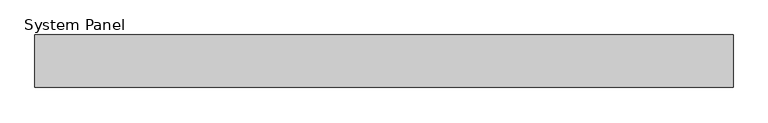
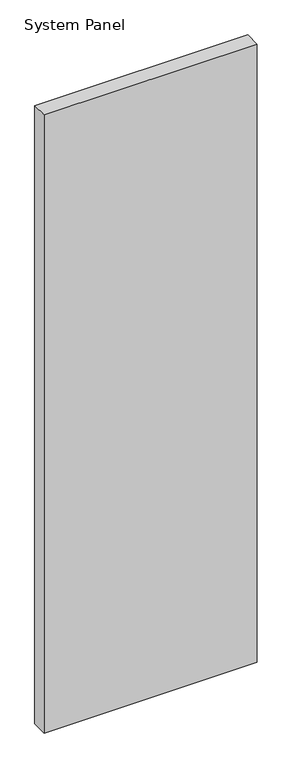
"""IFC4 building model written with IfcOpenShell, lengths in millimetres: plate geometry, System Panel : InsulWall_90mm_Plain_Surfmist."""

from ifc_helpers import new_model, si_unit, origin, origin_with_axes, place, context, project, spatial, polyline, outline, extrude, source, transform, mapped, element, save


def system_panel_21d90be0(model_context):
    return source(origin(), model_context, "Body", "SweptSolid", [
        extrude(outline(polyline([(600.0, -90.0), (-600.0, -90.0), (-600.0, 0.0), (600.0, 0.0), (600.0, -90.0)])), origin_with_axes(), (0.0, 0.0, 1.0), 3679.9704237),
    ])


if __name__ == "__main__":
    model = new_model("IFC4")
    model_context = context("Model", 3, world=origin())
    ifc_project = project(units=[si_unit("LENGTHUNIT", "METRE", prefix="MILLI")], contexts=[model_context])
    site = spatial("IfcSite", under=ifc_project)
    building = spatial("IfcBuilding", under=site)
    placement = place(None, origin())
    system_panel_shape = system_panel_21d90be0(model_context)
    element("IfcPlate", 1, ObjectType="System Panel : InsulWall_90mm_Plain_Surfmist", at=placement, inside=building, context=model_context, shape_type="MappedRepresentation", body=[
        mapped(system_panel_shape, transform((0.0, 0.0, 0.0), x_axis=(1.0, 0.0, 0.0), y_axis=(0.0, 1.0, 0.0), z_axis=(0.0, 0.0, 1.0))),
    ])
    save(model, "model.ifc")
